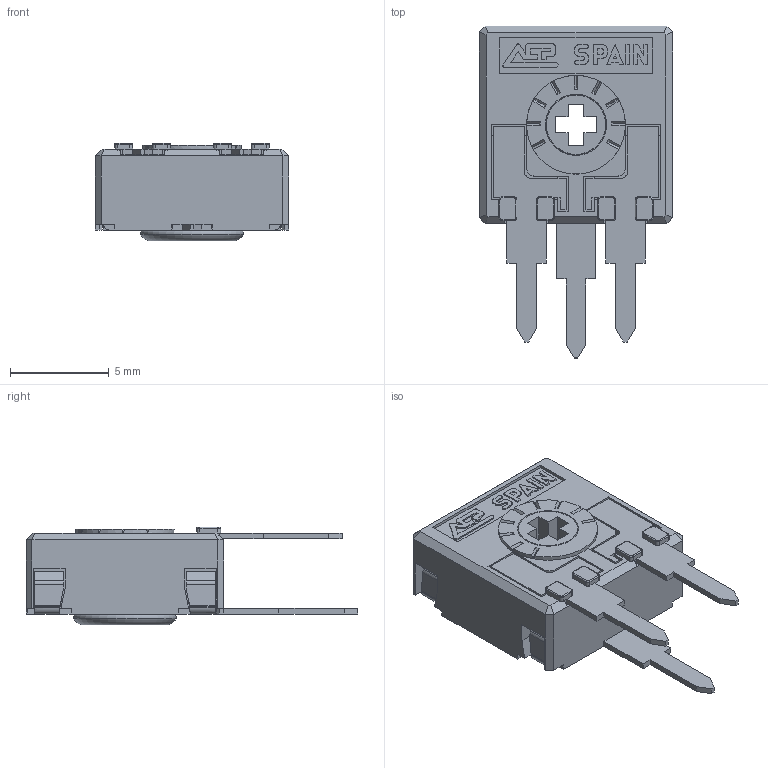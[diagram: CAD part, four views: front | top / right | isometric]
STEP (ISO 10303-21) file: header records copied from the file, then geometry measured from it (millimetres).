
FILE_DESCRIPTION(/* description */ (''),/* implementation_level */ '2;1');
FILE_NAME(/* name */ 'C:\Users\CEM\Desktop\ENVIAR\TRANSICION 3D CATALOGOS\RS9RH3,8.stp',/* time_stamp */ '2025-11-26T17:34:06+01:00',/* author */ ('CEM'),/* organization */ (''),/* preprocessor_version */ 'ST-DEVELOPER v16.13',/* originating_system */ 'Autodesk Inventor 2018',/* authorisation */ '');
FILE_SCHEMA (('AUTOMOTIVE_DESIGN { 1 0 10303 214 3 1 1 }'));
Length unit declared in the file: millimetre
Products named in the file (1): RS9RH3,8
Bounding box: 9.8 x 16.8 x 4.95 mm (x, y, z)
Volume: 245.7 mm3; surface area: 843.5 mm2
Topology: 2 solids, 2 shells, 590 faces, 1670 edges, 1069 vertices
Faces by surface type: plane 476, cylinder 79, torus 19, cone 16
Full cylindrical faces by diameter (mm): 3 x1, 3.1 x1, 4 x1, 4.8 x1, 5 x1
Entity records: 18986 total; most frequent: CARTESIAN_POINT 3363, ORIENTED_EDGE 3314, DIRECTION 3070, EDGE_CURVE 1655, LINE 1370, VECTOR 1370, VERTEX_POINT 1065, AXIS2_PLACEMENT_3D 850
